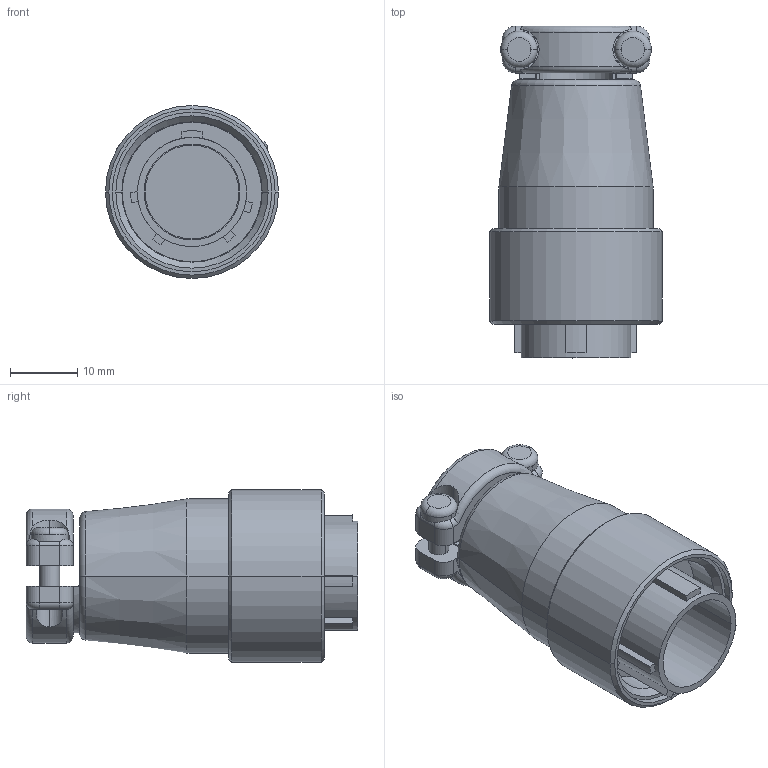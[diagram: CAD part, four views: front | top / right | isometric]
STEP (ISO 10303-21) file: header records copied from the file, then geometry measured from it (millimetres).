
FILE_DESCRIPTION(('CoCreate Modeling STEP Export'),'2;1');
FILE_NAME('JR16PK-10P.stp','2012-10-31T10:52:05',(''),(''),'CoCreate Modeling STEP processor for AP214 (Solid Model)','CoCreate Modeling 17.0 01-Apr-2010 (C) Parametric Technology GmbH','');
FILE_SCHEMA(('AUTOMOTIVE_DESIGN { 1 0 10303 214 1 1 1 1 }'));
Length unit declared in the file: millimetre
Products named in the file (1): JR16PK-10P
Bounding box: 25.8 x 49.5 x 25.8 mm (x, y, z)
Volume: 14761.2 mm3; surface area: 7942 mm2
Topology: 1 solids, 1 shells, 156 faces, 392 edges, 253 vertices
Faces by surface type: cylinder 78, plane 52, torus 18, cone 8
Entity records: 6198 total; most frequent: CARTESIAN_POINT 2644, ORIENTED_EDGE 784, DIRECTION 680, EDGE_CURVE 392, AXIS2_PLACEMENT_3D 257, VERTEX_POINT 253, EDGE_LOOP 173, VECTOR 166
